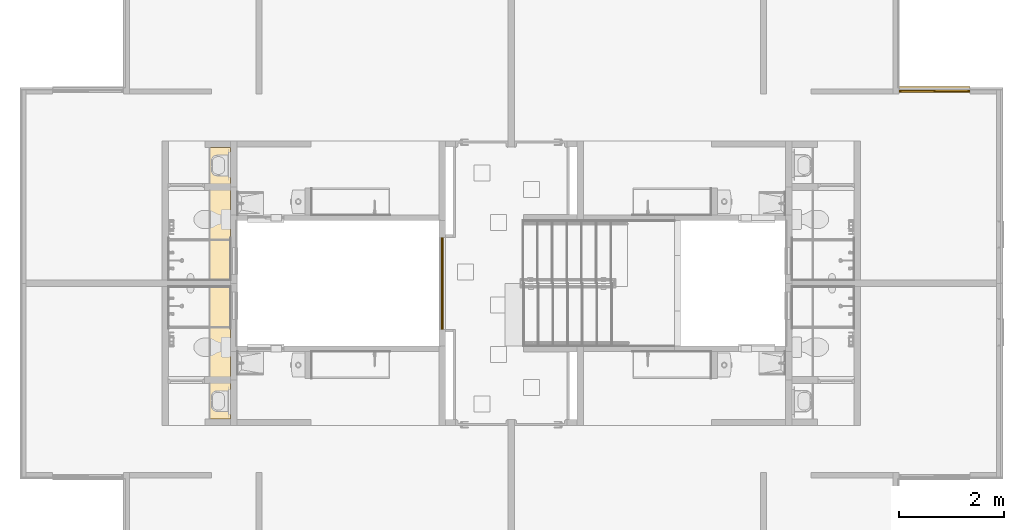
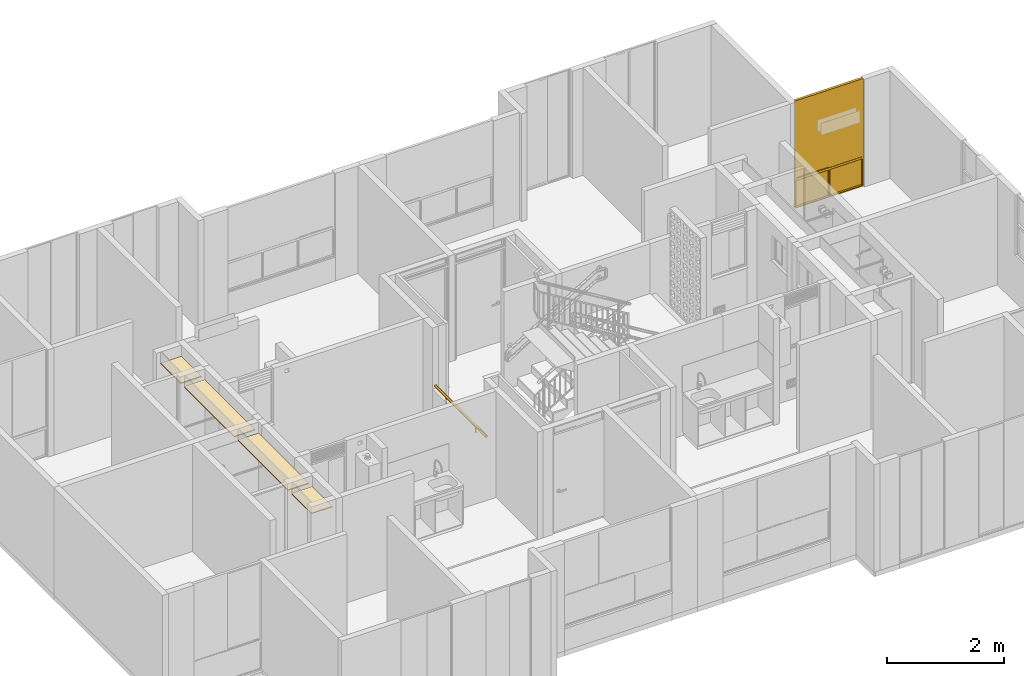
# One storey, part 36 of 48: 2 coverings, 1 railing, 1 window.
"""IFC4 building model written with IfcOpenShell, lengths in metres."""

from ifc_helpers import new_model, entity, si_unit, converted_unit, derived_unit, direction, frame, origin, place, context, subcontext, project, spatial, arc, indexed_curve, outline, extrude, polygons, source, transform, mapped, material, constituent, constituent_set, type_object, type_shapes, element, save


model = new_model("IFC4")

# Units and contexts
model_context = context("Model", 3, precision=1e-05, world=origin(), true_north=direction((6.123031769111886e-17, 1.0)))
body_context = subcontext(model_context, "Body", "Model", "MODEL_VIEW")
ifc_project = project(units=[si_unit("LENGTHUNIT", "METRE"), si_unit("AREAUNIT", "SQUARE_METRE"), si_unit("VOLUMEUNIT", "CUBIC_METRE"), converted_unit("PLANEANGLEUNIT", "DEGREE", entity("IfcRatioMeasure", 0.017453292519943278), si_unit("PLANEANGLEUNIT", "RADIAN"), dimensions=[0, 0, 0, 0, 0, 0, 0]), si_unit("MASSUNIT", "GRAM", prefix="KILO"), derived_unit("MASSDENSITYUNIT", [(si_unit("MASSUNIT", "GRAM", prefix="KILO"), 1), (si_unit("LENGTHUNIT", "METRE"), -3)]), derived_unit("IONCONCENTRATIONUNIT", [(si_unit("MASSUNIT", "GRAM", prefix="KILO"), 1), (si_unit("LENGTHUNIT", "METRE"), -3)]), derived_unit("MOMENTOFINERTIAUNIT", [(si_unit("LENGTHUNIT", "METRE"), 4)]), si_unit("TIMEUNIT", "SECOND"), si_unit("FREQUENCYUNIT", "HERTZ"), si_unit("THERMODYNAMICTEMPERATUREUNIT", "DEGREE_CELSIUS"), derived_unit("THERMALTRANSMITTANCEUNIT", [(si_unit("MASSUNIT", "GRAM", prefix="KILO"), 1), (si_unit("THERMODYNAMICTEMPERATUREUNIT", "KELVIN"), -1), (si_unit("TIMEUNIT", "SECOND"), -3)]), derived_unit("THERMALCONDUCTANCEUNIT", [(si_unit("MASSUNIT", "GRAM", prefix="KILO"), 1), (si_unit("THERMODYNAMICTEMPERATUREUNIT", "KELVIN"), -1), (si_unit("TIMEUNIT", "SECOND"), -3), (si_unit("LENGTHUNIT", "METRE"), 1)]), derived_unit("VOLUMETRICFLOWRATEUNIT", [(si_unit("LENGTHUNIT", "METRE"), 3), (si_unit("TIMEUNIT", "SECOND"), -1)]), derived_unit("MASSFLOWRATEUNIT", [(si_unit("MASSUNIT", "GRAM", prefix="KILO"), 1), (si_unit("TIMEUNIT", "SECOND"), -1)]), derived_unit("ROTATIONALFREQUENCYUNIT", [(si_unit("TIMEUNIT", "SECOND"), -1)]), si_unit("ELECTRICCURRENTUNIT", "AMPERE"), si_unit("ELECTRICVOLTAGEUNIT", "VOLT"), si_unit("POWERUNIT", "WATT"), si_unit("FORCEUNIT", "NEWTON", prefix="KILO"), si_unit("ILLUMINANCEUNIT", "LUX"), si_unit("LUMINOUSFLUXUNIT", "LUMEN"), si_unit("LUMINOUSINTENSITYUNIT", "CANDELA"), derived_unit("USERDEFINED", [(si_unit("MASSUNIT", "GRAM", prefix="KILO"), -1), (si_unit("LENGTHUNIT", "METRE"), -2), (si_unit("TIMEUNIT", "SECOND"), 3), (si_unit("LUMINOUSFLUXUNIT", "LUMEN"), 1)]), derived_unit("USERDEFINED", [(si_unit("MASSUNIT", "GRAM", prefix="KILO"), 1), (si_unit("TIMEUNIT", "SECOND"), -3), (si_unit("LENGTHUNIT", "METRE"), 3), (si_unit("ELECTRICCURRENTUNIT", "AMPERE"), -2)]), derived_unit("SOUNDPOWERUNIT", [(si_unit("MASSUNIT", "GRAM", prefix="KILO"), 1), (si_unit("TIMEUNIT", "SECOND"), -3), (si_unit("LENGTHUNIT", "METRE"), 2)]), derived_unit("SOUNDPRESSUREUNIT", [(si_unit("MASSUNIT", "GRAM", prefix="KILO"), 1), (si_unit("LENGTHUNIT", "METRE"), -1), (si_unit("TIMEUNIT", "SECOND"), -2)]), derived_unit("LINEARVELOCITYUNIT", [(si_unit("LENGTHUNIT", "METRE"), 1), (si_unit("TIMEUNIT", "SECOND"), -1)]), si_unit("PRESSUREUNIT", "PASCAL"), derived_unit("USERDEFINED", [(si_unit("MASSUNIT", "GRAM", prefix="KILO"), 1), (si_unit("LENGTHUNIT", "METRE"), -2), (si_unit("TIMEUNIT", "SECOND"), -2)]), derived_unit("LINEARFORCEUNIT", [(si_unit("MASSUNIT", "GRAM", prefix="KILO"), 1), (si_unit("TIMEUNIT", "SECOND"), -2)]), derived_unit("PLANARFORCEUNIT", [(si_unit("MASSUNIT", "GRAM", prefix="KILO"), 1), (si_unit("LENGTHUNIT", "METRE"), -1), (si_unit("TIMEUNIT", "SECOND"), -2)]), derived_unit("SPECIFICHEATCAPACITYUNIT", [(si_unit("THERMODYNAMICTEMPERATUREUNIT", "KELVIN"), -1), (si_unit("LENGTHUNIT", "METRE"), 2), (si_unit("TIMEUNIT", "SECOND"), -2)]), derived_unit("HEATINGVALUEUNIT", [(si_unit("LENGTHUNIT", "METRE"), 2), (si_unit("TIMEUNIT", "SECOND"), -2)]), derived_unit("VAPORPERMEABILITYUNIT", [(si_unit("LENGTHUNIT", "METRE"), -1), (si_unit("TIMEUNIT", "SECOND"), 1)]), derived_unit("DYNAMICVISCOSITYUNIT", [(si_unit("MASSUNIT", "GRAM", prefix="KILO"), 1), (si_unit("TIMEUNIT", "SECOND"), -1), (si_unit("LENGTHUNIT", "METRE"), -1)]), derived_unit("THERMALEXPANSIONCOEFFICIENTUNIT", [(si_unit("THERMODYNAMICTEMPERATUREUNIT", "KELVIN"), -1)]), derived_unit("MODULUSOFELASTICITYUNIT", [(si_unit("MASSUNIT", "GRAM", prefix="KILO"), 1), (si_unit("LENGTHUNIT", "METRE"), -1), (si_unit("TIMEUNIT", "SECOND"), -2)]), derived_unit("ISOTHERMALMOISTURECAPACITYUNIT", [(si_unit("LENGTHUNIT", "METRE"), 3), (si_unit("MASSUNIT", "GRAM", prefix="KILO"), -1)]), derived_unit("MOISTUREDIFFUSIVITYUNIT", [(si_unit("TIMEUNIT", "SECOND"), -1), (si_unit("LENGTHUNIT", "METRE"), 2)])], contexts=[model_context])

# Site, building, storey
site_placement = place(None, origin())
site = spatial("IfcSite", under=ifc_project, at=site_placement, Name="Default", CompositionType="ELEMENT")
building_placement = place(site_placement, origin())
building = spatial("IfcBuilding", under=site, at=building_placement, CompositionType="ELEMENT")
storey_placement = place(building_placement, frame((0.0, 0.0, 7.050000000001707)))
storey = spatial("IfcBuildingStorey", under=building, at=storey_placement, Name="Nivel 4", CompositionType="ELEMENT", Elevation=7.050000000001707)

# Window
ifc_material_1 = material(Name="Vidrio", Category="Materials")
ifc_constituent_1 = constituent(ifc_material_1, Name="Vidrio", Category="Materials")
ifc_material_2 = material(Name="Aluminio", Category="Materials")
ifc_constituent_2 = constituent(ifc_material_2, Name="Aluminio", Category="Materials")
ifc_material_3 = material(Name="<Unnamed>")
ifc_constituent_3 = constituent(ifc_material_3, Name="<Unnamed>")
ifc_constituent_set_1 = constituent_set(constituents=[ifc_constituent_1, ifc_constituent_2, ifc_constituent_3])
ifc_constituent_4 = constituent(ifc_material_1, Name="Vidrio", Category="Materials")
ifc_constituent_5 = constituent(ifc_material_2, Name="Aluminio", Category="Materials")
ifc_constituent_6 = constituent(ifc_material_3, Name="<Unnamed>")
ifc_constituent_set_2 = constituent_set(constituents=[ifc_constituent_4, ifc_constituent_5, ifc_constituent_6])
window_type = type_object("IfcWindowType", Name="B2020 - Ventana corrediza - Aluminio + Vidrio:B2020 - 1.35m x 2.25m - Ventana corrediza 2C - Aluminio + Vidrio", PartitioningType="NOTDEFINED", PredefinedType="WINDOW", material=ifc_constituent_set_2)
shared_shape = source(origin(), body_context, "Body", "Tessellation", [
    polygons([(1.3299999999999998, 0.044249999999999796, 2.2300000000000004), (0.6749999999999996, 0.04424999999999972, 2.2300000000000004), (0.6749999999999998, 0.04424999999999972, 0.6174999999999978), (1.3299999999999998, 0.044249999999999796, 0.6174999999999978), (1.3299999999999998, 0.04824999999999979, 2.2300000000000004), (0.6749999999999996, 0.04824999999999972, 2.2300000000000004), (0.6749999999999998, 0.04824999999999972, 0.6174999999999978), (1.3299999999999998, 0.04824999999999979, 0.6174999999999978)], [[[1, 2, 3, 4]], [[2, 1, 5, 6]], [[3, 2, 6, 7]], [[1, 4, 8, 5]], [[5, 8, 7, 6]], [[4, 3, 7, 8]]], closed=True),
    polygons([(0.020000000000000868, 0.04424999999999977, 2.2300000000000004), (0.020000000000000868, 0.04424999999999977, 0.6174999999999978), (0.6800000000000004, 0.044249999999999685, 0.6174999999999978), (0.6800000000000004, 0.044249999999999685, 2.2300000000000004), (0.020000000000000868, 0.048249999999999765, 2.2300000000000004), (0.020000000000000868, 0.048249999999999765, 0.6174999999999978), (0.6800000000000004, 0.04824999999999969, 0.6174999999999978), (0.6800000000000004, 0.04824999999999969, 2.2300000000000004)], [[[1, 2, 3, 4]], [[2, 1, 5, 6]], [[4, 3, 7, 8]], [[1, 4, 8, 5]], [[5, 8, 7, 6]], [[3, 2, 6, 7]]], closed=True),
    polygons([(0.6800000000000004, 0.048249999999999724, 0.6174999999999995), (0.6800000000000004, 0.044249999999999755, 0.6174999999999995), (0.6800000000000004, 0.044249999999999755, 2.230000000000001), (0.6800000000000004, 0.048249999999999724, 2.230000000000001), (0.665, 0.044249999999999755, 2.2150000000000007), (0.035000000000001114, 0.04424999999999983, 2.2150000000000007), (0.035000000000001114, 0.04424999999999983, 0.6324999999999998), (0.665, 0.044249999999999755, 0.6324999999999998), (0.020000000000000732, 0.04424999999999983, 0.6174999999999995), (0.020000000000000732, 0.04424999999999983, 2.230000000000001), (0.020000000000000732, 0.0482499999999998, 2.230000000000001), (0.020000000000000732, 0.0482499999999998, 0.6174999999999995), (0.665, 0.048249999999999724, 0.6324999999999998), (0.035000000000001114, 0.04824999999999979, 0.6324999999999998), (0.035000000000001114, 0.04824999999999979, 2.2150000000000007), (0.665, 0.048249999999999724, 2.2150000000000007), (0.665, 0.05299999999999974, 0.6324999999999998), (0.665, 0.05299999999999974, 2.2150000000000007), (0.035000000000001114, 0.05299999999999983, 2.2150000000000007), (0.035000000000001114, 0.05299999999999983, 0.6324999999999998), (0.6850000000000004, 0.05299999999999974, 0.6124999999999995), (0.015000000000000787, 0.05299999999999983, 0.6124999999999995), (0.015000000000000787, 0.05299999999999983, 2.2350000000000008), (0.6850000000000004, 0.05299999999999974, 2.2350000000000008), (0.6850000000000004, 0.03949999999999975, 0.6124999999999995), (0.6850000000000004, 0.03949999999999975, 2.2350000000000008), (0.015000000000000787, 0.03949999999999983, 2.2350000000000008), (0.015000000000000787, 0.03949999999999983, 0.6124999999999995), (0.665, 0.03949999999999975, 0.6324999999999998), (0.035000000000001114, 0.03949999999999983, 0.6324999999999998), (0.035000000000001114, 0.03949999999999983, 2.2150000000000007), (0.665, 0.03949999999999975, 2.2150000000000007)], [[[1, 2, 3, 4]], [[2, 9, 10, 3], [5, 6, 7, 8]], [[4, 3, 10, 11]], [[4, 11, 12, 1], [13, 14, 15, 16]], [[17, 13, 16, 18]], [[18, 16, 15, 19]], [[21, 22, 23, 24], [18, 19, 20, 17]], [[25, 21, 24, 26]], [[26, 24, 23, 27]], [[26, 27, 28, 25], [29, 30, 31, 32]], [[8, 29, 32, 5]], [[5, 32, 31, 6]], [[11, 10, 9, 12]], [[19, 15, 14, 20]], [[27, 23, 22, 28]], [[6, 31, 30, 7]], [[12, 9, 2, 1]], [[20, 14, 13, 17]], [[28, 22, 21, 25]], [[7, 30, 29, 8]]], closed=True),
    polygons([(0.6699999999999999, 0.06674999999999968, 2.229999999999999), (0.6699999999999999, 0.06674999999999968, 0.6174999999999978), (1.3299999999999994, 0.06674999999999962, 0.6174999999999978), (1.3299999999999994, 0.06674999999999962, 2.229999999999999), (0.6699999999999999, 0.07074999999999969, 2.229999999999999), (0.6699999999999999, 0.07074999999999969, 0.6174999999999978), (1.3299999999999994, 0.0707499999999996, 0.6174999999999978), (1.3299999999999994, 0.0707499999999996, 2.229999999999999)], [[[1, 2, 3, 4]], [[2, 1, 5, 6]], [[4, 3, 7, 8]], [[1, 4, 8, 5]], [[5, 8, 7, 6]], [[3, 2, 6, 7]]], closed=True),
    polygons([(1.3299999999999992, 0.07074999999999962, 0.6175), (1.3299999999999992, 0.06674999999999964, 0.6175), (1.3299999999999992, 0.06674999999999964, 2.2299999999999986), (1.3299999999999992, 0.07074999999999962, 2.2299999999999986), (1.3149999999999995, 0.06674999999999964, 2.214999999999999), (0.6850000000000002, 0.06674999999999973, 2.214999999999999), (0.6850000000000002, 0.06674999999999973, 0.6324999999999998), (1.3149999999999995, 0.06674999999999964, 0.6324999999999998), (0.6700000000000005, 0.06674999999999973, 0.6175), (0.6700000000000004, 0.06674999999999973, 2.2299999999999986), (0.6700000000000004, 0.0707499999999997, 2.2299999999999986), (0.6700000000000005, 0.0707499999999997, 0.6175), (1.3149999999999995, 0.07074999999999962, 0.6324999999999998), (0.6850000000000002, 0.0707499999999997, 0.6324999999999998), (0.6850000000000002, 0.0707499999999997, 2.214999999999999), (1.3149999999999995, 0.07074999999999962, 2.214999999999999), (1.3149999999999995, 0.07549999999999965, 0.6324999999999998), (1.3149999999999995, 0.07549999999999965, 2.214999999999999), (0.6850000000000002, 0.07549999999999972, 2.214999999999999), (0.6850000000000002, 0.07549999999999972, 0.6324999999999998), (1.3349999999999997, 0.07549999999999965, 0.6124999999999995), (0.665, 0.07549999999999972, 0.6124999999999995), (0.6649999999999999, 0.07549999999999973, 2.2349999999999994), (1.3349999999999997, 0.07549999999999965, 2.2349999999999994), (1.3349999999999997, 0.06199999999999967, 0.6124999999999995), (1.3349999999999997, 0.06199999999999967, 2.2349999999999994), (0.6649999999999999, 0.06199999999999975, 2.2349999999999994), (0.665, 0.06199999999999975, 0.6124999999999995), (1.3149999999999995, 0.06199999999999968, 0.6324999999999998), (0.6850000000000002, 0.06199999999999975, 0.6324999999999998), (0.6850000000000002, 0.06199999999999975, 2.214999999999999), (1.3149999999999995, 0.06199999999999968, 2.214999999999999)], [[[1, 2, 3, 4]], [[2, 9, 10, 3], [5, 6, 7, 8]], [[4, 3, 10, 11]], [[4, 11, 12, 1], [13, 14, 15, 16]], [[17, 13, 16, 18]], [[18, 16, 15, 19]], [[21, 22, 23, 24], [18, 19, 20, 17]], [[25, 21, 24, 26]], [[26, 24, 23, 27]], [[26, 27, 28, 25], [29, 30, 31, 32]], [[8, 29, 32, 5]], [[5, 32, 31, 6]], [[11, 10, 9, 12]], [[19, 15, 14, 20]], [[27, 23, 22, 28]], [[6, 31, 30, 7]], [[12, 9, 2, 1]], [[20, 14, 13, 17]], [[28, 22, 21, 25]], [[7, 30, 29, 8]]], closed=True),
    polygons([(1.3249999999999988, 0.037499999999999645, 2.224999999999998), (1.3249999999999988, 0.03249999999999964, 2.2249999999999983), (0.025000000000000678, 0.03249999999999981, 2.2249999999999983), (0.025000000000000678, 0.037499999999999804, 2.2249999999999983), (0.025000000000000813, 0.03249999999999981, 0.6200000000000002), (0.02500000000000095, 0.037499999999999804, 0.6200000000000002), (1.3249999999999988, 0.03249999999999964, 0.6200000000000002), (6.767919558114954e-16, 0.03249999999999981, 0.595), (1.349999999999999, 0.03249999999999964, 0.595), (1.349999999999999, 0.03249999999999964, 2.2499999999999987), (4.060751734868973e-16, 0.03249999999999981, 2.2499999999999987), (0.005000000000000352, 0.037499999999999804, 2.2449999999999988), (1.344999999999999, 0.037499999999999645, 2.2449999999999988), (1.344999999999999, 0.037499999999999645, 0.5999999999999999), (0.0050000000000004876, 0.037499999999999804, 0.5999999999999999), (1.3249999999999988, 0.037499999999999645, 0.6200000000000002), (1.344999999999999, 0.054999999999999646, 2.2449999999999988), (0.005000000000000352, 0.05499999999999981, 2.2449999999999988), (0.005000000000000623, 0.05499999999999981, 0.5999999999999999), (0.025000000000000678, 0.054999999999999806, 2.2249999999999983), (1.3249999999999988, 0.05499999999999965, 2.224999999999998), (1.3249999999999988, 0.05499999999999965, 0.6200000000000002), (0.025000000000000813, 0.054999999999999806, 0.6200000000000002), (1.344999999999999, 0.054999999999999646, 0.5999999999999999), (1.3249999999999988, 0.05999999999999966, 2.224999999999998), (0.025000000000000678, 0.05999999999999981, 2.2249999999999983), (0.02500000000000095, 0.05999999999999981, 0.6200000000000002), (0.005000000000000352, 0.05999999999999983, 2.2449999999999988), (1.344999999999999, 0.05999999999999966, 2.2449999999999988), (1.344999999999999, 0.05999999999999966, 0.5999999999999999), (0.0050000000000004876, 0.05999999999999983, 0.5999999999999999), (1.3249999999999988, 0.05999999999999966, 0.6200000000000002), (1.344999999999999, 0.07749999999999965, 2.2449999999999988), (0.005000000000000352, 0.07749999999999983, 2.2449999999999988), (0.005000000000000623, 0.07749999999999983, 0.5999999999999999), (0.025000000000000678, 0.07749999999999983, 2.2249999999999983), (1.3249999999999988, 0.07749999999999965, 2.224999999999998), (1.3249999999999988, 0.07749999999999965, 0.6200000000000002), (0.025000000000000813, 0.07749999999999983, 0.6200000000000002), (1.344999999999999, 0.07749999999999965, 0.5999999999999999), (1.3249999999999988, 0.08249999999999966, 2.224999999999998), (0.025000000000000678, 0.08249999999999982, 2.2249999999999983), (0.02500000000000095, 0.08249999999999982, 0.6200000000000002), (4.060751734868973e-16, 0.08249999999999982, 2.2499999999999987), (1.349999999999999, 0.08249999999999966, 2.2499999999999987), (1.349999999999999, 0.08249999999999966, 0.595), (5.414335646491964e-16, 0.08249999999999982, 0.595), (1.3249999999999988, 0.08249999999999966, 0.6200000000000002)], [[[1, 2, 3, 4]], [[4, 3, 5, 6]], [[8, 9, 10, 11], [3, 2, 7, 5]], [[12, 13, 14, 15], [6, 16, 1, 4]], [[17, 13, 12, 18]], [[18, 12, 15, 19]], [[19, 24, 17, 18], [20, 21, 22, 23]], [[25, 21, 20, 26]], [[26, 20, 23, 27]], [[28, 29, 30, 31], [27, 32, 25, 26]], [[33, 29, 28, 34]], [[34, 28, 31, 35]], [[35, 40, 33, 34], [36, 37, 38, 39]], [[41, 37, 36, 42]], [[42, 36, 39, 43]], [[44, 45, 46, 47], [43, 48, 41, 42]], [[10, 45, 44, 11]], [[11, 44, 47, 8]], [[16, 7, 2, 1]], [[24, 14, 13, 17]], [[32, 22, 21, 25]], [[40, 30, 29, 33]], [[48, 38, 37, 41]], [[9, 46, 45, 10]], [[6, 5, 7, 16]], [[19, 15, 14, 24]], [[27, 23, 22, 32]], [[35, 31, 30, 40]], [[43, 39, 38, 48]], [[8, 47, 46, 9]]], closed=True),
    polygons([(0.01999999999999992, 0.08250000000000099, 0.5749999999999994), (0.020000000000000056, 0.03249999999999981, 0.5749999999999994), (0.020000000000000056, 0.0324999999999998, 0.020000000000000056), (0.01999999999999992, 0.08250000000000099, 0.020000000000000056), (0.6649999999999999, 0.03250000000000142, 0.01999999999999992), (0.6649999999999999, 0.08250000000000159, 0.019999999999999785), (2.707167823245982e-16, 0.03250000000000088, 0.5949999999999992), (2.707167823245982e-16, 0.08249999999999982, 0.5949999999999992), (2.707167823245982e-16, 0.08249999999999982, 2.707167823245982e-16), (2.707167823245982e-16, 0.03250000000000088, 2.707167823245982e-16), (1.3499999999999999, 0.08249999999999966, 2.707167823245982e-16), (1.3499999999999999, 0.03250000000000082, 2.707167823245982e-16), (1.3299999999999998, 0.08250000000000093, 0.020000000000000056), (1.33, 0.03249999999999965, 0.020000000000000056), (1.33, 0.03249999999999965, 0.5749999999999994), (1.3299999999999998, 0.08250000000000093, 0.5749999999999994), (1.3499999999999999, 0.08249999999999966, 0.5949999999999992), (1.3499999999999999, 0.03250000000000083, 0.5949999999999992), (0.6849999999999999, 0.03250000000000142, 0.5749999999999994), (0.6849999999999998, 0.08250000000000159, 0.5749999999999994), (0.6849999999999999, 0.08250000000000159, 0.019999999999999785), (0.6849999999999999, 0.03250000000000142, 0.01999999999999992), (0.6649999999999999, 0.03250000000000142, 0.5749999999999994), (0.6649999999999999, 0.08250000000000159, 0.5749999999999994)], [[[1, 2, 3, 4]], [[4, 3, 5, 6]], [[7, 8, 9, 10]], [[10, 9, 11, 12]], [[13, 14, 15, 16]], [[12, 11, 17, 18]], [[16, 15, 19, 20]], [[8, 7, 18, 17]], [[21, 20, 19, 22]], [[7, 10, 12, 18], [22, 19, 15, 14], [23, 5, 3, 2]], [[24, 6, 5, 23]], [[9, 8, 17, 11], [6, 24, 1, 4], [20, 21, 13, 16]], [[2, 1, 24, 23]], [[14, 13, 21, 22]]], closed=True),
    polygons([(0.6850000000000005, 0.07213901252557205, 0.019999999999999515), (1.3300000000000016, 0.07213901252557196, 0.019999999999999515), (1.3300000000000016, 0.06813901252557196, 0.019999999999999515), (0.6850000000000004, 0.06813901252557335, 0.019999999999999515), (0.6850000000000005, 0.07213901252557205, 0.5849999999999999), (1.3300000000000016, 0.07213901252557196, 0.5849999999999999), (1.3300000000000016, 0.06813901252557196, 0.5849999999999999), (0.6850000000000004, 0.06813901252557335, 0.5849999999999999)], [[[1, 2, 3, 4]], [[5, 6, 2, 1]], [[6, 7, 3, 2]], [[7, 8, 4, 3]], [[8, 5, 1, 4]], [[5, 8, 7, 6]]], closed=True),
    polygons([(0.6649999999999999, 0.07213901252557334, 0.019999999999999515), (0.6649999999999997, 0.06813901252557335, 0.019999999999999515), (0.01999999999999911, 0.06813901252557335, 0.019999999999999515), (0.019999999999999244, 0.07213901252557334, 0.019999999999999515), (0.6649999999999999, 0.07213901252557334, 0.5849999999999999), (0.6649999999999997, 0.06813901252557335, 0.5849999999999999), (0.01999999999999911, 0.06813901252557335, 0.5849999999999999), (0.019999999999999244, 0.07213901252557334, 0.5849999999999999)], [[[1, 2, 3, 4]], [[5, 6, 2, 1]], [[6, 7, 3, 2]], [[7, 8, 4, 3]], [[8, 5, 1, 4]], [[5, 8, 7, 6]]], closed=True),
    polygons([(-9.475087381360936e-16, 0.11499999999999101, -4.060751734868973e-16), (-9.475087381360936e-16, 0.08249999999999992, -4.060751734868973e-16), (-9.475087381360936e-16, 0.08249999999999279, 0.0049999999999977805), (-9.475087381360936e-16, 0.11633974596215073, 0.0049999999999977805), (-8.121503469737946e-16, 0.14348076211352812, -0.010669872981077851), (-8.121503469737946e-16, 0.14098076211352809, -0.015000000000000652), (1.3499999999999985, 0.11499999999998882, -4.060751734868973e-16), (1.3499999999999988, 0.1409807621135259, -0.015000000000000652), (1.3499999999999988, 0.14348076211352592, -0.010669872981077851), (1.3499999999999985, 0.11633974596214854, 0.0049999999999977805), (1.3499999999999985, 0.08249999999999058, 0.0049999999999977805), (1.3499999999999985, 0.08249999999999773, -4.060751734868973e-16)], [[[1, 2, 3, 4, 5, 6]], [[7, 8, 9, 10, 11, 12]], [[2, 1, 7, 12]], [[3, 2, 12, 11]], [[4, 3, 11, 10]], [[5, 4, 10, 9]], [[6, 5, 9, 8]], [[1, 6, 8, 7]]], closed=True),
])
type_shapes(window_type, [shared_shape])
window_placement = place(storey_placement, frame((16.7275000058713, -2.8100000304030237, 0.0)))
element("IfcWindow", 1, at=window_placement, inside=storey, type_object=window_type, material=ifc_constituent_set_1, Name="B2020 - Ventana corrediza - Aluminio + Vidrio:B2020 - 1.35m x 2.25m - Ventana corrediza 2C - Aluminio + Vidrio", ObjectType="B2020 - Ventana corrediza - Aluminio + Vidrio:B2020 - 1.35m x 2.25m - Ventana corrediza 2C - Aluminio + Vidrio", OverallHeight=2.265, OverallWidth=1.3500000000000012, PartitioningType="NOTDEFINED", PredefinedType="WINDOW", context=body_context, shape_type="MappedRepresentation", body=[
    mapped(shared_shape, transform((0.0, 0.0, 0.0), scale=1.0)),
])

# Space
space_1_placement = place(storey_placement, origin())
space_1 = spatial("IfcSpace", under=storey, at=space_1_placement, Name="202", CompositionType="ELEMENT", PredefinedType="SPACE")

# Covering
ifc_material_4 = material(Name="Plasterboard", Category="Materials")
covering_type = type_object("IfcCoveringType", Name="Compound Ceiling:C1070 - 0.02m - Plafón - Drywall", PredefinedType="CEILING")
covering_1_placement = place(space_1_placement, origin())
element("IfcCovering", 2, at=covering_1_placement, inside=space_1, type_object=covering_type, material=ifc_material_4, Name="Compound Ceiling:C1070 - 0.02m - Plafón - Drywall", ObjectType="Compound Ceiling:C1070 - 0.02m - Plafón - Drywall", PredefinedType="CEILING", context=body_context, shape_type="SweptSolid", body=[
    extrude(outline(indexed_curve([(-0.862499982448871, -0.20500000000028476), (0.8624999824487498, -0.20500000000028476), (0.862499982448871, 0.20500000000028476), (-0.8624999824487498, 0.20500000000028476), (-0.862499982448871, -0.20500000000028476)], self_intersect=False)), frame((3.7574999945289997, -5.502500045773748, 2.0), z_axis=(0.0, 0.0, 1.0), x_axis=(0.0, 1.0, 0.0)), (0.0, 0.0, 1.0), 0.019999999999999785),
    extrude(outline(indexed_curve([(-0.3449999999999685, -0.20500000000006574), (0.3449999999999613, -0.20500000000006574), (0.3449999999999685, 0.20500000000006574), (-0.3449999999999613, 0.20500000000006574), (-0.3449999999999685, -0.20500000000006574)], self_intersect=False)), frame((3.7574999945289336, -4.18000006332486, 2.0), z_axis=(0.0, 0.0, 1.0), x_axis=(0.0, 1.0, 0.0)), (0.0, 0.0, 1.0), 0.019999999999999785),
])

# Space
space_2_placement = place(storey_placement, origin())
space_2 = spatial("IfcSpace", under=storey, at=space_2_placement, Name="210", CompositionType="ELEMENT", PredefinedType="SPACE")

# Covering
covering_2_placement = place(space_2_placement, origin())
element("IfcCovering", 3, at=covering_2_placement, inside=space_2, type_object=covering_type, material=ifc_material_4, Name="Compound Ceiling:C1070 - 0.02m - Plafón - Drywall", ObjectType="Compound Ceiling:C1070 - 0.02m - Plafón - Drywall", PredefinedType="CEILING", context=body_context, shape_type="SweptSolid", body=[
    extrude(outline(indexed_curve([(-0.2050000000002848, -0.862499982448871), (0.20500000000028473, -0.862499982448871), (0.2050000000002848, 0.862499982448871), (-0.20500000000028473, 0.862499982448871), (-0.2050000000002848, -0.862499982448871)], self_intersect=False)), frame((3.7574999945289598, -7.347500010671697, 2.0), z_axis=(0.0, 0.0, 1.0), x_axis=(-1.0, 0.0, 0.0)), (0.0, 0.0, 1.0), 0.019999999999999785),
    extrude(outline(indexed_curve([(-0.20500000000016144, -0.3450000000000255), (0.20500000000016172, -0.3450000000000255), (0.20500000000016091, 0.3450000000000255), (-0.20500000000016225, 0.3450000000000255), (-0.20500000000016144, -0.3450000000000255)], self_intersect=False)), frame((3.757499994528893, -8.669999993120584, 2.0), z_axis=(0.0, 0.0, 1.0), x_axis=(-1.0, 0.0, 0.0)), (0.0, 0.0, 1.0), 0.019999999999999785),
])

# Railing
ifc_constituent_7 = constituent(ifc_material_3, Name="<Unnamed>")
ifc_constituent_8 = constituent(ifc_material_2, Name="Aluminio", Category="Materials")
ifc_constituent_set_3 = constituent_set(constituents=[ifc_constituent_7, ifc_constituent_8])
railing_placement = place(storey_placement, origin())
element("IfcRailing", 4, at=railing_placement, inside=storey, material=ifc_constituent_set_3, Name="Railing:C1090 - Baranda - Aluminio", ObjectType="Railing:C1090 - Baranda - Aluminio", PredefinedType="NOTDEFINED", context=body_context, shape_type="SweptSolid", body=[
    extrude(outline(indexed_curve([(0.012500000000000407, 0.0), (0.0, 0.012500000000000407), (-0.012500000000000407, 0.0), (0.0, -0.012500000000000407)], segments=[arc(1, 2, 3), arc(3, 4, 1)], self_intersect=False)), frame((8.005000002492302, -6.925000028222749, 0.8750000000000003)), (0.0, 0.0, 1.0), 0.12499999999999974),
    extrude(outline(indexed_curve([(0.012500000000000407, 0.0), (0.0, 0.012500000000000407), (-0.012500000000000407, 0.0), (0.0, -0.012500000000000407)], segments=[arc(1, 2, 3), arc(3, 4, 1)], self_intersect=False)), frame((8.005000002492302, -5.925000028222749, 0.8750000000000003)), (0.0, 0.0, 1.0), 0.12499999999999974),
    extrude(outline(indexed_curve([(-0.02499999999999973, 0.0), (0.0, -0.02499999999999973), (0.02499999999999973, 0.0), (0.0, 0.02499999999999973)], segments=[arc(1, 2, 3), arc(3, 4, 1)], self_intersect=False)), frame((8.005000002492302, -7.305000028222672, 1.025), z_axis=(0.0, 1.0, 0.0), x_axis=(-1.0, 0.0, 0.0)), (0.0, 0.0, 1.0), 1.7599999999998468),
])

save(model, "model.ifc")
